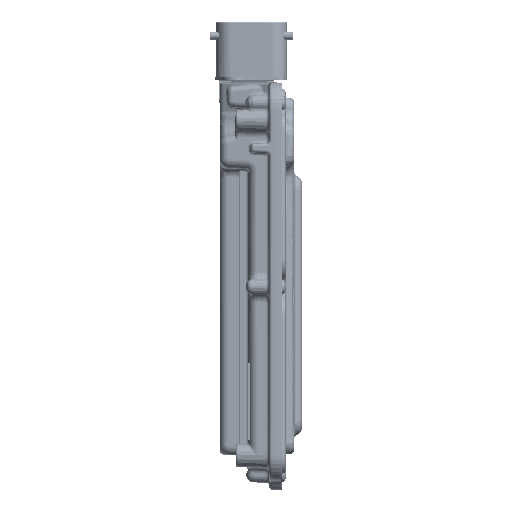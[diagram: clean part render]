
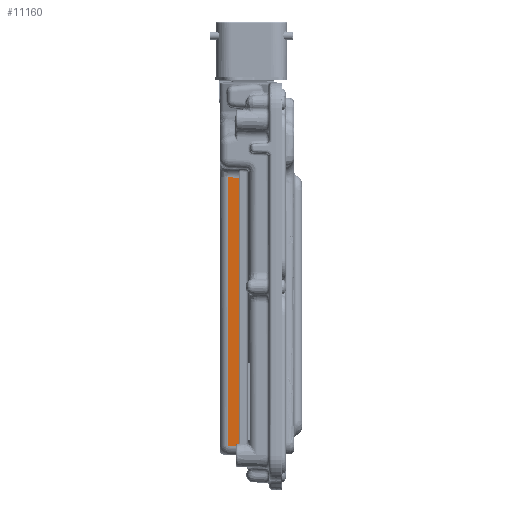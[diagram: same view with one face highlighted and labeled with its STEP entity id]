
A CAD part, left-side view. The second image highlights one B-rep face of the part: STEP entity #11160.
In plain terms, the highlighted planar face has unit normal (-0.999, 0.052, 0).
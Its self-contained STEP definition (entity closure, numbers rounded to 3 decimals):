
#11160=ADVANCED_FACE('PARTBODY',(#25214),#17890,.T.);
#17890=PLANE('',#183852);
#25214=FACE_OUTER_BOUND('',#34386,.T.);
#34386=EDGE_LOOP('',(#105244,#105245,#105246,#105247,#105248,#105249,#105250,
#105251,#105252,#105253,#105254,#105255));
#69581=B_SPLINE_CURVE_WITH_KNOTS('',1,(#296880,#296881),.UNSPECIFIED.,.F.,
 .F.,(2,2),(0.,1.),.UNSPECIFIED.);
#70274=B_SPLINE_CURVE_WITH_KNOTS('',1,(#303631,#303632),.UNSPECIFIED.,.F.,
 .F.,(2,2),(0.,1.),.UNSPECIFIED.);
#70275=B_SPLINE_CURVE_WITH_KNOTS('',1,(#303634,#303635),.UNSPECIFIED.,.F.,
 .F.,(2,2),(0.,1.),.UNSPECIFIED.);
#70276=B_SPLINE_CURVE_WITH_KNOTS('',3,(#303637,#303638,#303639,#303640,
#303641,#303642),.UNSPECIFIED.,.F.,.F.,(4,2,4),(0.,0.5,1.),
 .UNSPECIFIED.);
#70277=B_SPLINE_CURVE_WITH_KNOTS('',1,(#303644,#303645),.UNSPECIFIED.,.F.,
 .F.,(2,2),(0.,1.),.UNSPECIFIED.);
#70278=B_SPLINE_CURVE_WITH_KNOTS('',3,(#303647,#303648,#303649,#303650),
 .UNSPECIFIED.,.F.,.F.,(4,4),(0.,1.),.UNSPECIFIED.);
#70279=B_SPLINE_CURVE_WITH_KNOTS('',1,(#303652,#303653),.UNSPECIFIED.,.F.,
 .F.,(2,2),(0.,1.),.UNSPECIFIED.);
#70280=B_SPLINE_CURVE_WITH_KNOTS('',3,(#303655,#303656,#303657,#303658),
 .UNSPECIFIED.,.F.,.F.,(4,4),(0.,1.),.UNSPECIFIED.);
#70281=B_SPLINE_CURVE_WITH_KNOTS('',1,(#303660,#303661),.UNSPECIFIED.,.F.,
 .F.,(2,2),(0.,1.),.UNSPECIFIED.);
#70282=B_SPLINE_CURVE_WITH_KNOTS('',3,(#303663,#303664,#303665,#303666,
#303667,#303668),.UNSPECIFIED.,.F.,.F.,(4,2,4),(0.,0.5,1.),
 .UNSPECIFIED.);
#70283=B_SPLINE_CURVE_WITH_KNOTS('',1,(#303670,#303671),.UNSPECIFIED.,.F.,
 .F.,(2,2),(0.,1.),.UNSPECIFIED.);
#70284=B_SPLINE_CURVE_WITH_KNOTS('',1,(#303673,#303674),.UNSPECIFIED.,.F.,
 .F.,(2,2),(0.,1.),.UNSPECIFIED.);
#105244=ORIENTED_EDGE('',*,*,#162221,.F.);
#105245=ORIENTED_EDGE('',*,*,#163096,.T.);
#105246=ORIENTED_EDGE('',*,*,#163097,.T.);
#105247=ORIENTED_EDGE('',*,*,#163098,.T.);
#105248=ORIENTED_EDGE('',*,*,#163099,.T.);
#105249=ORIENTED_EDGE('',*,*,#163100,.T.);
#105250=ORIENTED_EDGE('',*,*,#163101,.T.);
#105251=ORIENTED_EDGE('',*,*,#163102,.T.);
#105252=ORIENTED_EDGE('',*,*,#163103,.T.);
#105253=ORIENTED_EDGE('',*,*,#163104,.T.);
#105254=ORIENTED_EDGE('',*,*,#163105,.T.);
#105255=ORIENTED_EDGE('',*,*,#163106,.T.);
#138976=VERTEX_POINT('',#296879);
#138977=VERTEX_POINT('',#296882);
#139514=VERTEX_POINT('',#303633);
#139515=VERTEX_POINT('',#303636);
#139516=VERTEX_POINT('',#303643);
#139517=VERTEX_POINT('',#303646);
#139518=VERTEX_POINT('',#303651);
#139519=VERTEX_POINT('',#303654);
#139520=VERTEX_POINT('',#303659);
#139521=VERTEX_POINT('',#303662);
#139522=VERTEX_POINT('',#303669);
#139523=VERTEX_POINT('',#303672);
#162221=EDGE_CURVE('',#138976,#138977,#69581,.T.);
#163096=EDGE_CURVE('',#138976,#139514,#70274,.T.);
#163097=EDGE_CURVE('',#139514,#139515,#70275,.T.);
#163098=EDGE_CURVE('',#139515,#139516,#70276,.T.);
#163099=EDGE_CURVE('',#139516,#139517,#70277,.T.);
#163100=EDGE_CURVE('',#139517,#139518,#70278,.T.);
#163101=EDGE_CURVE('',#139518,#139519,#70279,.T.);
#163102=EDGE_CURVE('',#139519,#139520,#70280,.T.);
#163103=EDGE_CURVE('',#139520,#139521,#70281,.T.);
#163104=EDGE_CURVE('',#139521,#139522,#70282,.T.);
#163105=EDGE_CURVE('',#139522,#139523,#70283,.T.);
#163106=EDGE_CURVE('',#139523,#138977,#70284,.T.);
#183852=AXIS2_PLACEMENT_3D('',#303675,#210425,#210426);
#210425=DIRECTION('',(-0.999,0.052,0.));
#210426=DIRECTION('',(0.,0.,-1.));
#296879=CARTESIAN_POINT('',(-34.295,22.636,-182.451));
#296880=CARTESIAN_POINT('',(-34.295,22.636,-182.451));
#296881=CARTESIAN_POINT('',(-34.295,22.636,-49.439));
#296882=CARTESIAN_POINT('',(-34.295,22.636,-49.439));
#303631=CARTESIAN_POINT('',(-34.295,22.636,-182.451));
#303632=CARTESIAN_POINT('',(-34.751,13.921,-182.908));
#303633=CARTESIAN_POINT('',(-34.751,13.921,-182.908));
#303634=CARTESIAN_POINT('',(-34.751,13.921,-182.908));
#303635=CARTESIAN_POINT('',(-34.751,13.921,-172.396));
#303636=CARTESIAN_POINT('',(-34.751,13.921,-172.396));
#303637=CARTESIAN_POINT('',(-34.751,13.921,-172.396));
#303638=CARTESIAN_POINT('',(-34.751,13.921,-171.394));
#303639=CARTESIAN_POINT('',(-34.773,13.512,-170.37));
#303640=CARTESIAN_POINT('',(-34.845,12.131,-168.915));
#303641=CARTESIAN_POINT('',(-34.898,11.133,-168.455));
#303642=CARTESIAN_POINT('',(-34.95,10.131,-168.402));
#303643=CARTESIAN_POINT('',(-34.95,10.131,-168.402));
#303644=CARTESIAN_POINT('',(-34.95,10.131,-168.402));
#303645=CARTESIAN_POINT('',(-35.226,4.869,-168.126));
#303646=CARTESIAN_POINT('',(-35.226,4.869,-168.126));
#303647=CARTESIAN_POINT('',(-35.226,4.869,-168.126));
#303648=CARTESIAN_POINT('',(-35.251,4.381,-168.1));
#303649=CARTESIAN_POINT('',(-35.275,3.922,-167.619));
#303650=CARTESIAN_POINT('',(-35.276,3.921,-167.128));
#303651=CARTESIAN_POINT('',(-35.276,3.921,-167.128));
#303652=CARTESIAN_POINT('',(-35.276,3.921,-167.128));
#303653=CARTESIAN_POINT('',(-35.276,3.921,-59.122));
#303654=CARTESIAN_POINT('',(-35.276,3.921,-59.122));
#303655=CARTESIAN_POINT('',(-35.276,3.921,-59.122));
#303656=CARTESIAN_POINT('',(-35.275,3.922,-58.633));
#303657=CARTESIAN_POINT('',(-35.252,4.379,-58.15));
#303658=CARTESIAN_POINT('',(-35.226,4.869,-58.124));
#303659=CARTESIAN_POINT('',(-35.226,4.869,-58.124));
#303660=CARTESIAN_POINT('',(-35.226,4.869,-58.124));
#303661=CARTESIAN_POINT('',(-34.95,10.131,-57.848));
#303662=CARTESIAN_POINT('',(-34.95,10.131,-57.848));
#303663=CARTESIAN_POINT('',(-34.95,10.131,-57.848));
#303664=CARTESIAN_POINT('',(-34.898,11.131,-57.795));
#303665=CARTESIAN_POINT('',(-34.845,12.131,-57.335));
#303666=CARTESIAN_POINT('',(-34.773,13.513,-55.88));
#303667=CARTESIAN_POINT('',(-34.751,13.921,-54.858));
#303668=CARTESIAN_POINT('',(-34.751,13.921,-53.854));
#303669=CARTESIAN_POINT('',(-34.751,13.921,-53.854));
#303670=CARTESIAN_POINT('',(-34.751,13.921,-53.854));
#303671=CARTESIAN_POINT('',(-34.751,13.921,-49.895));
#303672=CARTESIAN_POINT('',(-34.751,13.921,-49.895));
#303673=CARTESIAN_POINT('',(-34.751,13.921,-49.895));
#303674=CARTESIAN_POINT('',(-34.295,22.636,-49.439));
#303675=CARTESIAN_POINT('',(-35.276,3.921,-183.708));
